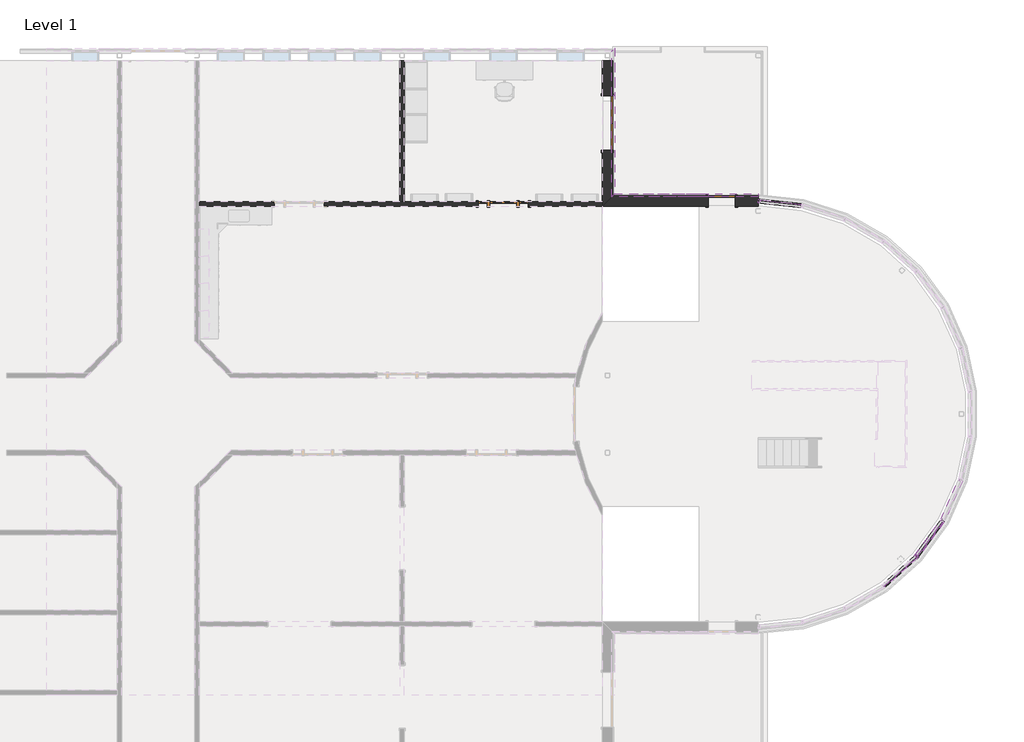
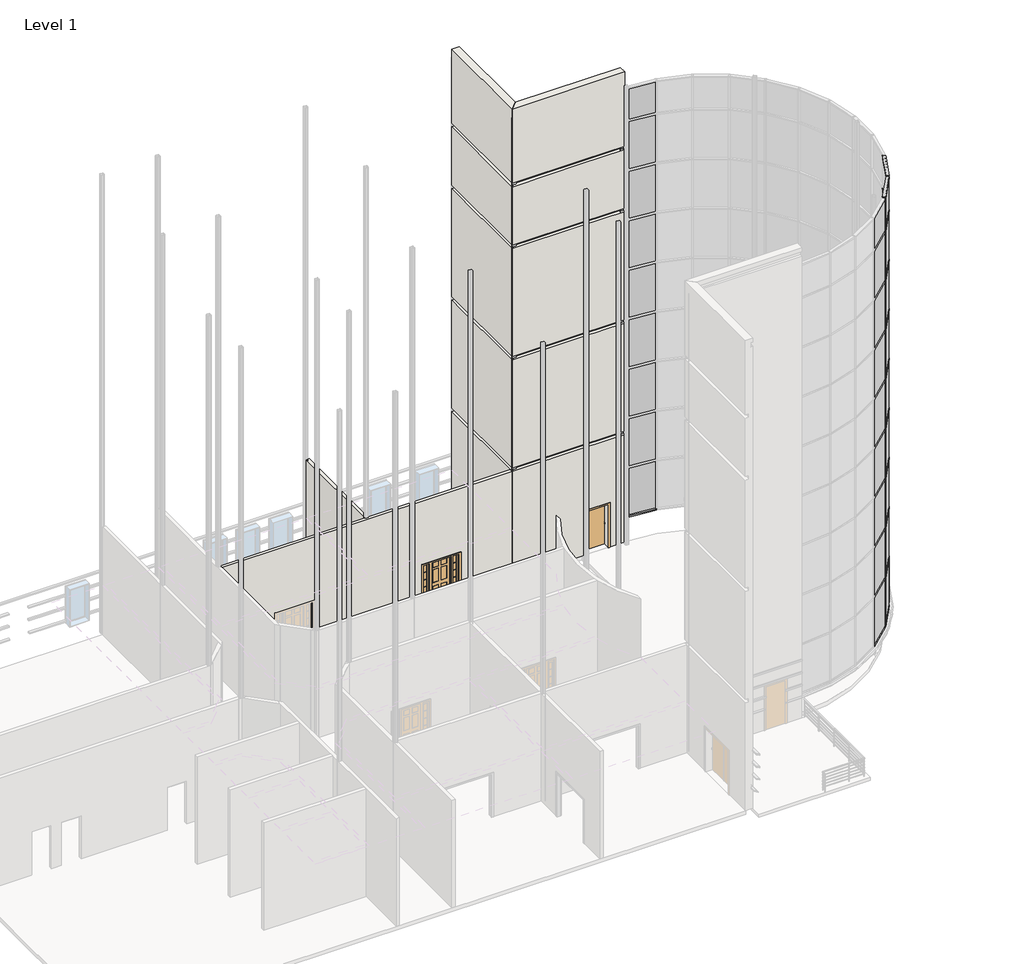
# One storey, part 11 of 16: 40 members, 27 plates, 6 proxies, 4 walls, 3 doors.
"""IFC4 building model written with IfcOpenShell, lengths in millimetres."""

from ifc_helpers import new_model, si_unit, frame, origin, origin_with_axes, place, context, project, spatial, polyline, outline, extrude, faceted_brep, transform, mapped, element, save
from components import door_c5474cef, door_cc5399a4, door_5449110c, member_45463520, member_ab48d357, member_1666ebf7, member_f0fea5a5, member_788d4f16, member_4f99afef, member_ee409385, system_panel_glazed_2e30f1c6, system_panel_glazed_294e175a, system_panel_glazed_6bd74036, system_panel_glazed_36605c35, system_panel_glazed_8bc432e9, system_panel_glazed_41a16be2

model = new_model("IFC4")

# Units and contexts
model_context = context("Model", 3, world=origin())
ifc_project = project(units=[si_unit("LENGTHUNIT", "METRE", prefix="MILLI")], contexts=[model_context])

# Site, building, storey
site = spatial("IfcSite", under=ifc_project)
building = spatial("IfcBuilding", under=site)
storey = spatial("IfcBuildingStorey", under=building, Name="Level 1", Elevation=0.0)

# Proxies
placement = place(None, origin())
element("IfcBuildingElementProxy", 1, Name="Reveals", at=placement, inside=storey, context=model_context, shape_type="SweptSolid", body=[
    extrude(outline(polyline([(10197.062245, 14268.2987109), (10289.137245, 14268.2987109), (10289.137245, 12810.9737109), (10197.062245, 12718.8987109), (10197.062245, 14268.2987109)])), frame((0.0, 0.0, 1625.6), z_axis=(0.0, 0.0, 1.0), x_axis=(1.0, 0.0, 0.0)), (0.0, 0.0, 1.0), 67.7333333),
    extrude(outline(polyline([(10197.062245, 17595.6987109), (10289.137245, 17687.7737109), (10289.137245, 16097.0987109), (10197.062245, 16097.0987109), (10197.062245, 17595.6987109)])), frame((0.0, 0.0, 1625.6), z_axis=(0.0, 0.0, 1.0), x_axis=(1.0, 0.0, 0.0)), (0.0, 0.0, 1.0), 67.7333333),
])
element("IfcBuildingElementProxy", 2, Name="Reveals", at=placement, inside=storey, context=model_context, shape_type="SweptSolid", body=[
    extrude(outline(polyline([(10197.062245, 17595.6987109), (10289.137245, 17687.7737109), (10289.137245, 12810.9737109), (10197.062245, 12718.8987109), (10197.062245, 17595.6987109)])), frame((0.0, 0.0, 2235.2), z_axis=(0.0, 0.0, 1.0), x_axis=(1.0, 0.0, 0.0)), (0.0, 0.0, 1.0), 67.7333333),
])
element("IfcBuildingElementProxy", 3, Name="Reveals", at=placement, inside=storey, context=model_context, shape_type="SweptSolid", body=[
    extrude(outline(polyline([(10197.062245, 17595.6987109), (10289.137245, 17687.7737109), (10289.137245, 12810.9737109), (10197.062245, 12718.8987109), (10197.062245, 17595.6987109)])), frame((0.0, 0.0, 2844.8), z_axis=(0.0, 0.0, 1.0), x_axis=(1.0, 0.0, 0.0)), (0.0, 0.0, 1.0), 67.7333333),
])
element("IfcBuildingElementProxy", 4, Name="Reveals", at=placement, inside=storey, context=model_context, shape_type="SweptSolid", body=[
    extrude(outline(polyline([(14330.912245, 12718.8987109), (14330.912245, 12810.9737109), (15099.262245, 12810.9737109), (15099.262245, 12718.8987109), (14330.912245, 12718.8987109)])), frame((0.0, 0.0, 1625.6), z_axis=(0.0, 0.0, 1.0), x_axis=(1.0, 0.0, 0.0)), (0.0, 0.0, 1.0), 67.7333333),
    extrude(outline(polyline([(10197.062245, 12718.8987109), (10289.137245, 12810.9737109), (13416.512245, 12810.9737109), (13416.512245, 12718.8987109), (10197.062245, 12718.8987109)])), frame((0.0, 0.0, 1625.6), z_axis=(0.0, 0.0, 1.0), x_axis=(1.0, 0.0, 0.0)), (0.0, 0.0, 1.0), 67.7333333),
])
element("IfcBuildingElementProxy", 5, Name="Reveals", at=placement, inside=storey, context=model_context, shape_type="SweptSolid", body=[
    extrude(outline(polyline([(10197.062245, 12718.8987109), (10289.137245, 12810.9737109), (15099.262245, 12810.9737109), (15099.262245, 12718.8987109), (10197.062245, 12718.8987109)])), frame((0.0, 0.0, 2235.2), z_axis=(0.0, 0.0, 1.0), x_axis=(1.0, 0.0, 0.0)), (0.0, 0.0, 1.0), 67.7333333),
])
element("IfcBuildingElementProxy", 6, Name="Reveals", at=placement, inside=storey, context=model_context, shape_type="SweptSolid", body=[
    extrude(outline(polyline([(10197.062245, 12718.8987109), (10289.137245, 12810.9737109), (15099.262245, 12810.9737109), (15099.262245, 12718.8987109), (10197.062245, 12718.8987109)])), frame((0.0, 0.0, 2844.8), z_axis=(0.0, 0.0, 1.0), x_axis=(1.0, 0.0, 0.0)), (0.0, 0.0, 1.0), 67.7333333),
])

# Doors
door_shape = door_c5474cef(model_context)
element("IfcDoor", 7, ObjectType="Double-Flush : 72\" x 84\"", at=placement, inside=storey, context=model_context, shape_type="MappedRepresentation", body=[
    mapped(door_shape, transform((10046.249745, 15182.6987109, 0.0), x_axis=(0.0, 1.0, 0.0), y_axis=(-1.0, 0.0, 0.0), z_axis=(0.0, 0.0, 1.0))),
])
door_2_shape = door_cc5399a4(model_context)
element("IfcDoor", 8, ObjectType="Single-Flush : 36\" x 84\"", at=placement, inside=storey, context=model_context, shape_type="MappedRepresentation", body=[
    mapped(door_2_shape, transform((13873.712245, 12568.0862109, 0.0), x_axis=(-1.0, 0.0, 0.0), y_axis=(0.0, -1.0, 0.0), z_axis=(0.0, 0.0, 1.0))),
])
door_3_shape = door_5449110c(model_context)
element("IfcDoor", 9, ObjectType="Single-Raised Panel with Sidelights : 36\" x 84\"", at=placement, inside=storey, context=model_context, shape_type="MappedRepresentation", body=[
    mapped(door_3_shape, transform((6555.337245, 12469.6612109, 0.0), x_axis=(1.0, 0.0, 0.0), y_axis=(0.0, 1.0, 0.0), z_axis=(0.0, 0.0, 1.0))),
])

# Members
member_shape = member_45463520(model_context)
element("IfcMember", 10, ObjectType="Rectangular Mullion : 2.5\" x 5\" rectangular", at=placement, inside=storey, context=model_context, shape_type="MappedRepresentation", body=[
    mapped(member_shape, transform((21294.7206657, 1888.6100292, 22250.4), x_axis=(0.0, 0.0, 1.0), y_axis=(-0.9135454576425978, 0.4067366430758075, 0.0), z_axis=(-0.4067366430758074, -0.9135454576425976, 0.0))),
])
element("IfcMember", 11, ObjectType="Rectangular Mullion : 2.5\" x 5\" rectangular", at=placement, inside=storey, context=model_context, shape_type="MappedRepresentation", body=[
    mapped(member_shape, transform((20423.2260466, 677.8699658, 22250.4), x_axis=(0.0, 0.0, 1.0), y_axis=(-0.8090169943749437, 0.5877852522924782, 0.0), z_axis=(-0.5877852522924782, -0.8090169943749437, 0.0))),
])
member_2_shape = member_ab48d357(model_context)
element("IfcMember", 12, ObjectType="Rectangular Mullion : 2.5\" x 5\" rectangular", at=placement, inside=storey, context=model_context, shape_type="MappedRepresentation", body=[
    mapped(member_2_shape, transform((15162.4143854, 12561.4486535, 1092.2), x_axis=(0.0, 0.0, -1.0), y_axis=(-0.10452846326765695, -0.994521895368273, 0.0), z_axis=(-0.994521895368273, 0.10452846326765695, 0.0))),
])
element("IfcMember", 13, ObjectType="Rectangular Mullion : 2.5\" x 5\" rectangular", at=placement, inside=storey, context=model_context, shape_type="MappedRepresentation", body=[
    mapped(member_shape, transform((21263.1445956, 1833.9186713, 1092.2), x_axis=(0.0, 0.0, -1.0), y_axis=(-0.8090169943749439, 0.587785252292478, 0.0), z_axis=(0.587785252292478, 0.8090169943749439, 0.0))),
])
element("IfcMember", 14, ObjectType="Rectangular Mullion : 2.5\" x 5\" rectangular", at=placement, inside=storey, context=model_context, shape_type="MappedRepresentation", body=[
    mapped(member_shape, transform((20380.9690166, 630.9387795, 1092.2), x_axis=(0.0, 0.0, -1.0), y_axis=(-0.669130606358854, 0.7431448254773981, 0.0), z_axis=(0.743144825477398, 0.6691306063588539, 0.0))),
])
member_3_shape = member_1666ebf7(model_context)
element("IfcMember", 15, ObjectType="Rectangular Mullion : 2.5\" x 5\" rectangular", at=placement, inside=storey, context=model_context, shape_type="MappedRepresentation", body=[
    mapped(member_3_shape, transform((21294.7206657, 1888.6100292, 3530.6), x_axis=(0.0, 0.0, 1.0), y_axis=(-0.9135454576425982, 0.40673664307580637, 0.0), z_axis=(-0.40673664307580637, -0.9135454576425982, 0.0))),
])
element("IfcMember", 16, ObjectType="Rectangular Mullion : 2.5\" x 5\" rectangular", at=placement, inside=storey, context=model_context, shape_type="MappedRepresentation", body=[
    mapped(member_3_shape, transform((20423.2260466, 677.8699658, 3530.6), x_axis=(0.0, 0.0, 1.0), y_axis=(-0.8090169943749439, 0.5877852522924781, 0.0), z_axis=(-0.587785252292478, -0.8090169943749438, 0.0))),
])
element("IfcMember", 17, ObjectType="Rectangular Mullion : 2.5\" x 5\" rectangular", at=placement, inside=storey, context=model_context, shape_type="MappedRepresentation", body=[
    mapped(member_3_shape, transform((21294.7206657, 1888.6100292, 5969.0), x_axis=(0.0, 0.0, 1.0), y_axis=(-0.9135454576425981, 0.4067366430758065, 0.0), z_axis=(-0.4067366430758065, -0.9135454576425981, 0.0))),
])
element("IfcMember", 18, ObjectType="Rectangular Mullion : 2.5\" x 5\" rectangular", at=placement, inside=storey, context=model_context, shape_type="MappedRepresentation", body=[
    mapped(member_3_shape, transform((20423.2260466, 677.8699658, 5969.0), x_axis=(0.0, 0.0, 1.0), y_axis=(-0.8090169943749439, 0.5877852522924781, 0.0), z_axis=(-0.587785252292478, -0.8090169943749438, 0.0))),
])
element("IfcMember", 19, ObjectType="Rectangular Mullion : 2.5\" x 5\" rectangular", at=placement, inside=storey, context=model_context, shape_type="MappedRepresentation", body=[
    mapped(member_3_shape, transform((21294.7206657, 1888.6100292, 8407.4), x_axis=(0.0, 0.0, 1.0), y_axis=(-0.9135454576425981, 0.4067366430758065, 0.0), z_axis=(-0.4067366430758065, -0.9135454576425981, 0.0))),
])
element("IfcMember", 20, ObjectType="Rectangular Mullion : 2.5\" x 5\" rectangular", at=placement, inside=storey, context=model_context, shape_type="MappedRepresentation", body=[
    mapped(member_3_shape, transform((20423.2260466, 677.8699658, 8407.4), x_axis=(0.0, 0.0, 1.0), y_axis=(-0.8090169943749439, 0.5877852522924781, 0.0), z_axis=(-0.587785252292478, -0.8090169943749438, 0.0))),
])
element("IfcMember", 21, ObjectType="Rectangular Mullion : 2.5\" x 5\" rectangular", at=placement, inside=storey, context=model_context, shape_type="MappedRepresentation", body=[
    mapped(member_3_shape, transform((21294.7206657, 1888.6100292, 10845.8), x_axis=(0.0, 0.0, 1.0), y_axis=(-0.9135454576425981, 0.4067366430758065, 0.0), z_axis=(-0.4067366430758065, -0.9135454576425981, 0.0))),
])
element("IfcMember", 22, ObjectType="Rectangular Mullion : 2.5\" x 5\" rectangular", at=placement, inside=storey, context=model_context, shape_type="MappedRepresentation", body=[
    mapped(member_3_shape, transform((20423.2260466, 677.8699658, 10845.8), x_axis=(0.0, 0.0, 1.0), y_axis=(-0.8090169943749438, 0.5877852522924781, 0.0), z_axis=(-0.5877852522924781, -0.8090169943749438, 0.0))),
])
element("IfcMember", 23, ObjectType="Rectangular Mullion : 2.5\" x 5\" rectangular", at=placement, inside=storey, context=model_context, shape_type="MappedRepresentation", body=[
    mapped(member_3_shape, transform((21294.7206657, 1888.6100292, 13284.2), x_axis=(0.0, 0.0, 1.0), y_axis=(-0.9135454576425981, 0.4067366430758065, 0.0), z_axis=(-0.4067366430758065, -0.9135454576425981, 0.0))),
])
element("IfcMember", 24, ObjectType="Rectangular Mullion : 2.5\" x 5\" rectangular", at=placement, inside=storey, context=model_context, shape_type="MappedRepresentation", body=[
    mapped(member_3_shape, transform((20423.2260466, 677.8699658, 13284.2), x_axis=(0.0, 0.0, 1.0), y_axis=(-0.8090169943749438, 0.5877852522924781, 0.0), z_axis=(-0.5877852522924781, -0.8090169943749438, 0.0))),
])
element("IfcMember", 25, ObjectType="Rectangular Mullion : 2.5\" x 5\" rectangular", at=placement, inside=storey, context=model_context, shape_type="MappedRepresentation", body=[
    mapped(member_3_shape, transform((21294.7206657, 1888.6100292, 15722.6), x_axis=(0.0, 0.0, 1.0), y_axis=(-0.9135454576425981, 0.4067366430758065, 0.0), z_axis=(-0.4067366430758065, -0.9135454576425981, 0.0))),
])
element("IfcMember", 26, ObjectType="Rectangular Mullion : 2.5\" x 5\" rectangular", at=placement, inside=storey, context=model_context, shape_type="MappedRepresentation", body=[
    mapped(member_3_shape, transform((20423.2260466, 677.8699658, 15722.6), x_axis=(0.0, 0.0, 1.0), y_axis=(-0.8090169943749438, 0.5877852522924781, 0.0), z_axis=(-0.5877852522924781, -0.8090169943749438, 0.0))),
])
element("IfcMember", 27, ObjectType="Rectangular Mullion : 2.5\" x 5\" rectangular", at=placement, inside=storey, context=model_context, shape_type="MappedRepresentation", body=[
    mapped(member_3_shape, transform((21294.7206657, 1888.6100292, 18161.0), x_axis=(0.0, 0.0, 1.0), y_axis=(-0.9135454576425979, 0.40673664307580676, 0.0), z_axis=(-0.40673664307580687, -0.9135454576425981, 0.0))),
])
element("IfcMember", 28, ObjectType="Rectangular Mullion : 2.5\" x 5\" rectangular", at=placement, inside=storey, context=model_context, shape_type="MappedRepresentation", body=[
    mapped(member_3_shape, transform((20423.2260466, 677.8699658, 18161.0), x_axis=(0.0, 0.0, 1.0), y_axis=(-0.8090169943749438, 0.5877852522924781, 0.0), z_axis=(-0.5877852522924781, -0.8090169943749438, 0.0))),
])
element("IfcMember", 29, ObjectType="Rectangular Mullion : 2.5\" x 5\" rectangular", at=placement, inside=storey, context=model_context, shape_type="MappedRepresentation", body=[
    mapped(member_3_shape, transform((21294.7206657, 1888.6100292, 20599.4), x_axis=(0.0, 0.0, 1.0), y_axis=(-0.9135454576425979, 0.40673664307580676, 0.0), z_axis=(-0.40673664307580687, -0.9135454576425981, 0.0))),
])
element("IfcMember", 30, ObjectType="Rectangular Mullion : 2.5\" x 5\" rectangular", at=placement, inside=storey, context=model_context, shape_type="MappedRepresentation", body=[
    mapped(member_3_shape, transform((20423.2260466, 677.8699658, 20599.4), x_axis=(0.0, 0.0, 1.0), y_axis=(-0.8090169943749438, 0.5877852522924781, 0.0), z_axis=(-0.5877852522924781, -0.8090169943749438, 0.0))),
])
member_4_shape = member_f0fea5a5(model_context)
element("IfcMember", 31, ObjectType="Rectangular Mullion : 2.5\" x 5\" rectangular", at=placement, inside=storey, context=model_context, shape_type="MappedRepresentation", body=[
    mapped(member_4_shape, transform((21281.8067773, 1859.6049609, 1092.2), x_axis=(-0.5000000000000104, -0.8660254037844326, 0.0), y_axis=(-0.8660254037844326, 0.5000000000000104, 0.0), z_axis=(0.0, 0.0, -1.0))),
])
element("IfcMember", 32, ObjectType="Rectangular Mullion : 2.5\" x 5\" rectangular", at=placement, inside=storey, context=model_context, shape_type="MappedRepresentation", body=[
    mapped(member_4_shape, transform((20404.5638648, 652.1836762, 1092.2), x_axis=(-0.6691306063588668, -0.7431448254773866, 0.0), y_axis=(-0.7431448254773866, 0.6691306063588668, 0.0), z_axis=(0.0, 0.0, -1.0))),
])
element("IfcMember", 33, ObjectType="Rectangular Mullion : 2.5\" x 5\" rectangular", at=placement, inside=storey, context=model_context, shape_type="MappedRepresentation", body=[
    mapped(member_4_shape, transform((20404.5638648, 652.1836762, 3530.6), x_axis=(-0.6691306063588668, -0.7431448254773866, 0.0), y_axis=(-0.7431448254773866, 0.6691306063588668, 0.0), z_axis=(0.0, 0.0, -1.0))),
])
element("IfcMember", 34, ObjectType="Rectangular Mullion : 2.5\" x 5\" rectangular", at=placement, inside=storey, context=model_context, shape_type="MappedRepresentation", body=[
    mapped(member_4_shape, transform((20404.5638648, 652.1836762, 5969.0), x_axis=(-0.6691306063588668, -0.7431448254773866, 0.0), y_axis=(-0.7431448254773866, 0.6691306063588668, 0.0), z_axis=(0.0, 0.0, -1.0))),
])
element("IfcMember", 35, ObjectType="Rectangular Mullion : 2.5\" x 5\" rectangular", at=placement, inside=storey, context=model_context, shape_type="MappedRepresentation", body=[
    mapped(member_4_shape, transform((20404.5638648, 652.1836762, 8407.4), x_axis=(-0.6691306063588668, -0.7431448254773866, 0.0), y_axis=(-0.7431448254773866, 0.6691306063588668, 0.0), z_axis=(0.0, 0.0, -1.0))),
])
element("IfcMember", 36, ObjectType="Rectangular Mullion : 2.5\" x 5\" rectangular", at=placement, inside=storey, context=model_context, shape_type="MappedRepresentation", body=[
    mapped(member_4_shape, transform((20404.5638648, 652.1836762, 10845.8), x_axis=(-0.6691306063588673, -0.743144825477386, 0.0), y_axis=(-0.743144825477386, 0.6691306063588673, 0.0), z_axis=(0.0, 0.0, -1.0))),
])
element("IfcMember", 37, ObjectType="Rectangular Mullion : 2.5\" x 5\" rectangular", at=placement, inside=storey, context=model_context, shape_type="MappedRepresentation", body=[
    mapped(member_4_shape, transform((20404.5638648, 652.1836762, 13284.2), x_axis=(-0.6691306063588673, -0.743144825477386, 0.0), y_axis=(-0.743144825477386, 0.6691306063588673, 0.0), z_axis=(0.0, 0.0, -1.0))),
])
element("IfcMember", 38, ObjectType="Rectangular Mullion : 2.5\" x 5\" rectangular", at=placement, inside=storey, context=model_context, shape_type="MappedRepresentation", body=[
    mapped(member_4_shape, transform((20404.5638648, 652.1836762, 15722.6), x_axis=(-0.6691306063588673, -0.743144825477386, 0.0), y_axis=(-0.743144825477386, 0.6691306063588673, 0.0), z_axis=(0.0, 0.0, -1.0))),
])
element("IfcMember", 39, ObjectType="Rectangular Mullion : 2.5\" x 5\" rectangular", at=placement, inside=storey, context=model_context, shape_type="MappedRepresentation", body=[
    mapped(member_4_shape, transform((20404.5638648, 652.1836762, 18161.0), x_axis=(-0.6691306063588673, -0.743144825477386, 0.0), y_axis=(-0.743144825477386, 0.6691306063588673, 0.0), z_axis=(0.0, 0.0, -1.0))),
])
member_5_shape = member_788d4f16(model_context)
element("IfcMember", 40, ObjectType="Rectangular Mullion : 2.5\" x 5\" rectangular", at=placement, inside=storey, context=model_context, shape_type="MappedRepresentation", body=[
    mapped(member_5_shape, transform((20404.5638648, 652.1836762, 20599.4), x_axis=(-0.6691306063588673, -0.743144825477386, 0.0), y_axis=(-0.743144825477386, 0.6691306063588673, 0.0), z_axis=(0.0, 0.0, -1.0))),
])
member_6_shape = member_4f99afef(model_context)
element("IfcMember", 41, ObjectType="Rectangular Mullion : 2.5\" x 5\" rectangular", at=placement, inside=storey, context=model_context, shape_type="MappedRepresentation", body=[
    mapped(member_6_shape, transform((15099.262245, 12568.0862109, 22250.4), x_axis=(-0.994521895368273, 0.10452846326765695, 0.0), y_axis=(-0.10452846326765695, -0.994521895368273, 0.0), z_axis=(0.0, 0.0, 1.0))),
])
member_7_shape = member_ee409385(model_context)
element("IfcMember", 42, ObjectType="Rectangular Mullion : 2.5\" x 5\" rectangular", at=placement, inside=storey, context=model_context, shape_type="MappedRepresentation", body=[
    mapped(member_7_shape, transform((15099.262245, 12568.0862109, 3530.6), x_axis=(-0.994521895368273, 0.10452846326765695, 0.0), y_axis=(-0.10452846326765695, -0.994521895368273, 0.0), z_axis=(0.0, 0.0, 1.0))),
])
element("IfcMember", 43, ObjectType="Rectangular Mullion : 2.5\" x 5\" rectangular", at=placement, inside=storey, context=model_context, shape_type="MappedRepresentation", body=[
    mapped(member_7_shape, transform((15099.262245, 12568.0862109, 5969.0), x_axis=(-0.994521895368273, 0.10452846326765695, 0.0), y_axis=(-0.10452846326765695, -0.994521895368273, 0.0), z_axis=(0.0, 0.0, 1.0))),
])
element("IfcMember", 44, ObjectType="Rectangular Mullion : 2.5\" x 5\" rectangular", at=placement, inside=storey, context=model_context, shape_type="MappedRepresentation", body=[
    mapped(member_7_shape, transform((15099.262245, 12568.0862109, 8407.4), x_axis=(-0.994521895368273, 0.10452846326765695, 0.0), y_axis=(-0.10452846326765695, -0.994521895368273, 0.0), z_axis=(0.0, 0.0, 1.0))),
])
element("IfcMember", 45, ObjectType="Rectangular Mullion : 2.5\" x 5\" rectangular", at=placement, inside=storey, context=model_context, shape_type="MappedRepresentation", body=[
    mapped(member_7_shape, transform((15099.262245, 12568.0862109, 10845.8), x_axis=(-0.994521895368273, 0.10452846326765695, 0.0), y_axis=(-0.10452846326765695, -0.994521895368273, 0.0), z_axis=(0.0, 0.0, 1.0))),
])
element("IfcMember", 46, ObjectType="Rectangular Mullion : 2.5\" x 5\" rectangular", at=placement, inside=storey, context=model_context, shape_type="MappedRepresentation", body=[
    mapped(member_7_shape, transform((15099.262245, 12568.0862109, 13284.2), x_axis=(-0.994521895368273, 0.10452846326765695, 0.0), y_axis=(-0.10452846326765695, -0.994521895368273, 0.0), z_axis=(0.0, 0.0, 1.0))),
])
element("IfcMember", 47, ObjectType="Rectangular Mullion : 2.5\" x 5\" rectangular", at=placement, inside=storey, context=model_context, shape_type="MappedRepresentation", body=[
    mapped(member_7_shape, transform((15099.262245, 12568.0862109, 15722.6), x_axis=(-0.994521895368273, 0.10452846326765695, 0.0), y_axis=(-0.10452846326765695, -0.994521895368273, 0.0), z_axis=(0.0, 0.0, 1.0))),
])
element("IfcMember", 48, ObjectType="Rectangular Mullion : 2.5\" x 5\" rectangular", at=placement, inside=storey, context=model_context, shape_type="MappedRepresentation", body=[
    mapped(member_7_shape, transform((15099.262245, 12568.0862109, 18161.0), x_axis=(-0.994521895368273, 0.10452846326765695, 0.0), y_axis=(-0.10452846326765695, -0.994521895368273, 0.0), z_axis=(0.0, 0.0, 1.0))),
])
element("IfcMember", 49, ObjectType="Rectangular Mullion : 2.5\" x 5\" rectangular", at=placement, inside=storey, context=model_context, shape_type="MappedRepresentation", body=[
    mapped(member_7_shape, transform((15099.262245, 12568.0862109, 20599.4), x_axis=(-0.994521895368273, 0.10452846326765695, 0.0), y_axis=(-0.10452846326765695, -0.994521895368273, 0.0), z_axis=(0.0, 0.0, 1.0))),
])

# Plates
system_panel_glazed_shape = system_panel_glazed_2e30f1c6(model_context)
element("IfcPlate", 50, ObjectType="System Panel : Glazed", at=placement, inside=storey, context=model_context, shape_type="MappedRepresentation", body=[
    mapped(system_panel_glazed_shape, transform((15857.189761, 12488.4248189, 1155.7), x_axis=(0.994521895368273, -0.10452846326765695, 0.0), y_axis=(0.10452846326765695, 0.994521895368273, 0.0), z_axis=(0.0, 0.0, 1.0))),
])
system_panel_glazed_2_shape = system_panel_glazed_294e175a(model_context)
element("IfcPlate", 51, ObjectType="System Panel : Glazed", at=placement, inside=storey, context=model_context, shape_type="MappedRepresentation", body=[
    mapped(system_panel_glazed_2_shape, transform((20843.1853211, 1255.8943186, 1155.7), x_axis=(-0.5877852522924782, -0.8090169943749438, 0.0), y_axis=(0.8090169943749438, -0.5877852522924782, 0.0), z_axis=(0.0, 0.0, 1.0))),
])
element("IfcPlate", 52, ObjectType="System Panel : Glazed", at=placement, inside=storey, context=model_context, shape_type="MappedRepresentation", body=[
    mapped(system_panel_glazed_2_shape, transform((19850.0088393, 152.8600885, 1155.7), x_axis=(-0.7431448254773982, -0.6691306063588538, 0.0), y_axis=(0.6691306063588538, -0.7431448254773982, 0.0), z_axis=(0.0, 0.0, 1.0))),
])
system_panel_glazed_3_shape = system_panel_glazed_6bd74036(model_context)
element("IfcPlate", 53, ObjectType="System Panel : Glazed", at=placement, inside=storey, context=model_context, shape_type="MappedRepresentation", body=[
    mapped(system_panel_glazed_3_shape, transform((15857.189761, 12488.4248189, 3562.35), x_axis=(0.994521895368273, -0.10452846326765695, 0.0), y_axis=(0.10452846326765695, 0.994521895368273, 0.0), z_axis=(0.0, 0.0, 1.0))),
])
element("IfcPlate", 54, ObjectType="System Panel : Glazed", at=placement, inside=storey, context=model_context, shape_type="MappedRepresentation", body=[
    mapped(system_panel_glazed_3_shape, transform((15857.189761, 12488.4248189, 6000.75), x_axis=(0.994521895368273, -0.10452846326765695, 0.0), y_axis=(0.10452846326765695, 0.994521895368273, 0.0), z_axis=(0.0, 0.0, 1.0))),
])
element("IfcPlate", 55, ObjectType="System Panel : Glazed", at=placement, inside=storey, context=model_context, shape_type="MappedRepresentation", body=[
    mapped(system_panel_glazed_3_shape, transform((15857.189761, 12488.4248189, 8439.15), x_axis=(0.994521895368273, -0.10452846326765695, 0.0), y_axis=(0.10452846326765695, 0.994521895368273, 0.0), z_axis=(0.0, 0.0, 1.0))),
])
element("IfcPlate", 56, ObjectType="System Panel : Glazed", at=placement, inside=storey, context=model_context, shape_type="MappedRepresentation", body=[
    mapped(system_panel_glazed_3_shape, transform((15857.189761, 12488.4248189, 10877.55), x_axis=(0.994521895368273, -0.10452846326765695, 0.0), y_axis=(0.10452846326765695, 0.994521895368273, 0.0), z_axis=(0.0, 0.0, 1.0))),
])
element("IfcPlate", 57, ObjectType="System Panel : Glazed", at=placement, inside=storey, context=model_context, shape_type="MappedRepresentation", body=[
    mapped(system_panel_glazed_3_shape, transform((15857.189761, 12488.4248189, 13315.95), x_axis=(0.994521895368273, -0.10452846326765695, 0.0), y_axis=(0.10452846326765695, 0.994521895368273, 0.0), z_axis=(0.0, 0.0, 1.0))),
])
element("IfcPlate", 58, ObjectType="System Panel : Glazed", at=placement, inside=storey, context=model_context, shape_type="MappedRepresentation", body=[
    mapped(system_panel_glazed_3_shape, transform((15857.189761, 12488.4248189, 15754.35), x_axis=(0.994521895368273, -0.10452846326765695, 0.0), y_axis=(0.10452846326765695, 0.994521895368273, 0.0), z_axis=(0.0, 0.0, 1.0))),
])
element("IfcPlate", 59, ObjectType="System Panel : Glazed", at=placement, inside=storey, context=model_context, shape_type="MappedRepresentation", body=[
    mapped(system_panel_glazed_3_shape, transform((15857.189761, 12488.4248189, 18192.75), x_axis=(0.994521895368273, -0.10452846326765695, 0.0), y_axis=(0.10452846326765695, 0.994521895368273, 0.0), z_axis=(0.0, 0.0, 1.0))),
])
system_panel_glazed_4_shape = system_panel_glazed_36605c35(model_context)
element("IfcPlate", 60, ObjectType="System Panel : Glazed", at=placement, inside=storey, context=model_context, shape_type="MappedRepresentation", body=[
    mapped(system_panel_glazed_4_shape, transform((20843.1853211, 1255.8943186, 3562.35), x_axis=(-0.5877852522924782, -0.8090169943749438, 0.0), y_axis=(0.8090169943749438, -0.5877852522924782, 0.0), z_axis=(0.0, 0.0, 1.0))),
])
element("IfcPlate", 61, ObjectType="System Panel : Glazed", at=placement, inside=storey, context=model_context, shape_type="MappedRepresentation", body=[
    mapped(system_panel_glazed_4_shape, transform((19850.0088393, 152.8600885, 3562.35), x_axis=(-0.7431448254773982, -0.6691306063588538, 0.0), y_axis=(0.6691306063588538, -0.7431448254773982, 0.0), z_axis=(0.0, 0.0, 1.0))),
])
element("IfcPlate", 62, ObjectType="System Panel : Glazed", at=placement, inside=storey, context=model_context, shape_type="MappedRepresentation", body=[
    mapped(system_panel_glazed_4_shape, transform((20843.1853211, 1255.8943186, 6000.75), x_axis=(-0.5877852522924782, -0.8090169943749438, 0.0), y_axis=(0.8090169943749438, -0.5877852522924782, 0.0), z_axis=(0.0, 0.0, 1.0))),
])
element("IfcPlate", 63, ObjectType="System Panel : Glazed", at=placement, inside=storey, context=model_context, shape_type="MappedRepresentation", body=[
    mapped(system_panel_glazed_4_shape, transform((19850.0088393, 152.8600885, 6000.75), x_axis=(-0.7431448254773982, -0.6691306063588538, 0.0), y_axis=(0.6691306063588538, -0.7431448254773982, 0.0), z_axis=(0.0, 0.0, 1.0))),
])
element("IfcPlate", 64, ObjectType="System Panel : Glazed", at=placement, inside=storey, context=model_context, shape_type="MappedRepresentation", body=[
    mapped(system_panel_glazed_4_shape, transform((20843.1853211, 1255.8943186, 8439.15), x_axis=(-0.5877852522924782, -0.8090169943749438, 0.0), y_axis=(0.8090169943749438, -0.5877852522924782, 0.0), z_axis=(0.0, 0.0, 1.0))),
])
element("IfcPlate", 65, ObjectType="System Panel : Glazed", at=placement, inside=storey, context=model_context, shape_type="MappedRepresentation", body=[
    mapped(system_panel_glazed_4_shape, transform((19850.0088393, 152.8600885, 8439.15), x_axis=(-0.7431448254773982, -0.6691306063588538, 0.0), y_axis=(0.6691306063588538, -0.7431448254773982, 0.0), z_axis=(0.0, 0.0, 1.0))),
])
element("IfcPlate", 66, ObjectType="System Panel : Glazed", at=placement, inside=storey, context=model_context, shape_type="MappedRepresentation", body=[
    mapped(system_panel_glazed_4_shape, transform((20843.1853211, 1255.8943186, 10877.55), x_axis=(-0.5877852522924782, -0.8090169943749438, 0.0), y_axis=(0.8090169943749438, -0.5877852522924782, 0.0), z_axis=(0.0, 0.0, 1.0))),
])
element("IfcPlate", 67, ObjectType="System Panel : Glazed", at=placement, inside=storey, context=model_context, shape_type="MappedRepresentation", body=[
    mapped(system_panel_glazed_4_shape, transform((19850.0088393, 152.8600885, 10877.55), x_axis=(-0.7431448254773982, -0.6691306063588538, 0.0), y_axis=(0.6691306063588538, -0.7431448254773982, 0.0), z_axis=(0.0, 0.0, 1.0))),
])
element("IfcPlate", 68, ObjectType="System Panel : Glazed", at=placement, inside=storey, context=model_context, shape_type="MappedRepresentation", body=[
    mapped(system_panel_glazed_4_shape, transform((20843.1853211, 1255.8943186, 13315.95), x_axis=(-0.5877852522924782, -0.8090169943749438, 0.0), y_axis=(0.8090169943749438, -0.5877852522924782, 0.0), z_axis=(0.0, 0.0, 1.0))),
])
element("IfcPlate", 69, ObjectType="System Panel : Glazed", at=placement, inside=storey, context=model_context, shape_type="MappedRepresentation", body=[
    mapped(system_panel_glazed_4_shape, transform((19850.0088393, 152.8600885, 13315.95), x_axis=(-0.7431448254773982, -0.6691306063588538, 0.0), y_axis=(0.6691306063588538, -0.7431448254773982, 0.0), z_axis=(0.0, 0.0, 1.0))),
])
element("IfcPlate", 70, ObjectType="System Panel : Glazed", at=placement, inside=storey, context=model_context, shape_type="MappedRepresentation", body=[
    mapped(system_panel_glazed_4_shape, transform((20843.1853211, 1255.8943186, 15754.35), x_axis=(-0.5877852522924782, -0.8090169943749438, 0.0), y_axis=(0.8090169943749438, -0.5877852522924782, 0.0), z_axis=(0.0, 0.0, 1.0))),
])
element("IfcPlate", 71, ObjectType="System Panel : Glazed", at=placement, inside=storey, context=model_context, shape_type="MappedRepresentation", body=[
    mapped(system_panel_glazed_4_shape, transform((19850.0088393, 152.8600885, 15754.35), x_axis=(-0.7431448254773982, -0.6691306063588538, 0.0), y_axis=(0.6691306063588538, -0.7431448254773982, 0.0), z_axis=(0.0, 0.0, 1.0))),
])
element("IfcPlate", 72, ObjectType="System Panel : Glazed", at=placement, inside=storey, context=model_context, shape_type="MappedRepresentation", body=[
    mapped(system_panel_glazed_4_shape, transform((20843.1853211, 1255.8943186, 18192.75), x_axis=(-0.5877852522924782, -0.8090169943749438, 0.0), y_axis=(0.8090169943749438, -0.5877852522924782, 0.0), z_axis=(0.0, 0.0, 1.0))),
])
element("IfcPlate", 73, ObjectType="System Panel : Glazed", at=placement, inside=storey, context=model_context, shape_type="MappedRepresentation", body=[
    mapped(system_panel_glazed_4_shape, transform((19850.0088393, 152.8600885, 18192.75), x_axis=(-0.7431448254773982, -0.6691306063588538, 0.0), y_axis=(0.6691306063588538, -0.7431448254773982, 0.0), z_axis=(0.0, 0.0, 1.0))),
])
system_panel_glazed_5_shape = system_panel_glazed_8bc432e9(model_context)
element("IfcPlate", 74, ObjectType="System Panel : Glazed", at=placement, inside=storey, context=model_context, shape_type="MappedRepresentation", body=[
    mapped(system_panel_glazed_5_shape, transform((15857.189761, 12488.4248189, 20631.15), x_axis=(0.994521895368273, -0.10452846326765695, 0.0), y_axis=(0.10452846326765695, 0.994521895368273, 0.0), z_axis=(0.0, 0.0, 1.0))),
])
system_panel_glazed_6_shape = system_panel_glazed_41a16be2(model_context)
element("IfcPlate", 75, ObjectType="System Panel : Glazed", at=placement, inside=storey, context=model_context, shape_type="MappedRepresentation", body=[
    mapped(system_panel_glazed_6_shape, transform((20843.1853211, 1255.8943186, 20631.15), x_axis=(-0.5877852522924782, -0.8090169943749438, 0.0), y_axis=(0.8090169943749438, -0.5877852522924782, 0.0), z_axis=(0.0, 0.0, 1.0))),
])
element("IfcPlate", 76, ObjectType="System Panel : Glazed", at=placement, inside=storey, context=model_context, shape_type="MappedRepresentation", body=[
    mapped(system_panel_glazed_6_shape, transform((19850.0088393, 152.8600885, 20631.15), x_axis=(-0.7431448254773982, -0.6691306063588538, 0.0), y_axis=(0.6691306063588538, -0.7431448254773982, 0.0), z_axis=(0.0, 0.0, 1.0))),
])

# Walls
element("IfcWall", 77, ObjectType="Exterior - Brick and CMU on MTL. Stud", at=placement, inside=storey, context=model_context, shape_type="Brep", body=[
    faceted_brep([(9870.037245, 12391.8737109, 23164.8), (9870.037245, 17268.6737109, 23164.8), (9870.037245, 17268.6737109, 19507.2), (9870.037245, 12391.8737109, 19507.2), (9870.037245, 17268.6737109, 0.0), (9870.037245, 16097.0987109, 0.0), (9870.037245, 16097.0987109, 2133.6), (9870.037245, 14268.2987109, 2133.6), (9870.037245, 14268.2987109, 0.0), (9870.037245, 12547.4487109, 0.0), (9870.037245, 12391.8737109, 0.0), (9870.037245, 12391.8737109, 5308.6), (9870.037245, 12547.4487109, 5308.6), (9870.037245, 17268.6737109, 5308.6), (9870.037245, 12391.8737109, 19329.4), (9870.037245, 17268.6737109, 19329.4), (9870.037245, 17268.6737109, 16459.2), (9870.037245, 12391.8737109, 16459.2), (9870.037245, 12391.8737109, 16281.4), (9870.037245, 17268.6737109, 16281.4), (9870.037245, 17268.6737109, 10972.8), (9870.037245, 12391.8737109, 10972.8), (9870.037245, 17268.6737109, 5486.4), (9870.037245, 12391.8737109, 5486.4), (9870.037245, 12391.8737109, 10795.0), (9870.037245, 17268.6737109, 10795.0), (10222.462245, 17268.6737109, 23164.8), (10222.462245, 12744.2987109, 23164.8), (10222.462245, 12744.2987109, 22961.6), (10222.462245, 17268.6737109, 22961.6), (10222.462245, 12744.2987109, 1693.3333333), (10222.462245, 14268.2987109, 1693.3333333), (10222.462245, 14268.2987109, 2133.6), (10222.462245, 16097.0987109, 2133.6), (10222.462245, 16097.0987109, 1693.3333333), (10222.462245, 17268.6737109, 1693.3333333), (10222.462245, 17268.6737109, 2235.2), (10222.462245, 12744.2987109, 2235.2), (10222.462245, 14268.2987109, 1625.6), (10222.462245, 12744.2987109, 1625.6), (10222.462245, 12744.2987109, 1085.85), (10222.462245, 14268.2987109, 1085.85), (10222.462245, 14268.2987109, 1016.0), (10222.462245, 12744.2987109, 1016.0), (10222.462245, 12744.2987109, 0.0), (10222.462245, 14268.2987109, 0.0), (10222.462245, 17268.6737109, 1625.6), (10222.462245, 16097.0987109, 1625.6), (10222.462245, 16097.0987109, 1085.85), (10222.462245, 17268.6737109, 1085.85), (10222.462245, 12744.2987109, 2302.9333333), (10222.462245, 17268.6737109, 2302.9333333), (10222.462245, 17268.6737109, 2844.8), (10222.462245, 12744.2987109, 2844.8), (10222.462245, 12744.2987109, 2912.5333333), (10222.462245, 17268.6737109, 2912.5333333), (10222.462245, 17268.6737109, 22758.4), (10222.462245, 12744.2987109, 22758.4), (10222.462245, 17268.6737109, 0.0), (10222.462245, 17268.6737109, 1016.0), (10222.462245, 16097.0987109, 1016.0), (10222.462245, 16097.0987109, 0.0), (10130.387245, 17268.6737109, 0.0), (10130.387245, 16097.0987109, 0.0), (10130.387245, 12652.2237109, 0.0), (10130.387245, 14268.2987109, 0.0), (10197.062245, 12718.8987109, 1693.3333333), (10197.062245, 14268.2987109, 1693.3333333), (10197.062245, 14268.2987109, 1625.6), (10197.062245, 12718.8987109, 1625.6), (10197.062245, 12718.8987109, 2235.2), (10197.062245, 17268.6737109, 2235.2), (10197.062245, 17268.6737109, 2302.9333333), (10197.062245, 12718.8987109, 2302.9333333), (10197.062245, 12718.8987109, 2844.8), (10197.062245, 17268.6737109, 2844.8), (10197.062245, 17268.6737109, 2912.5333333), (10197.062245, 12718.8987109, 2912.5333333), (10130.387245, 12652.2237109, 1085.85), (10130.387245, 14268.2987109, 1085.85), (10130.387245, 14268.2987109, 1016.0), (10130.387245, 12652.2237109, 1016.0), (10130.387245, 12652.2237109, 22758.4), (10130.387245, 17268.6737109, 22758.4), (10130.387245, 17268.6737109, 22961.6), (10130.387245, 12652.2237109, 22961.6), (10197.062245, 17268.6737109, 1693.3333333), (10197.062245, 17268.6737109, 1625.6), (10130.387245, 17268.6737109, 1085.85), (10130.387245, 17268.6737109, 1016.0), (10035.137245, 17268.6737109, 5308.6), (10035.137245, 17268.6737109, 5486.4), (10035.137245, 17268.6737109, 10795.0), (10035.137245, 17268.6737109, 10972.8), (10035.137245, 17268.6737109, 16281.4), (10035.137245, 17268.6737109, 16459.2), (10035.137245, 17268.6737109, 19329.4), (10035.137245, 17268.6737109, 19507.2), (10197.062245, 16097.0987109, 1693.3333333), (10197.062245, 16097.0987109, 1625.6), (10130.387245, 16097.0987109, 1085.85), (10130.387245, 16097.0987109, 1016.0), (10035.137245, 12556.9737109, 5308.6), (10035.137245, 12556.9737109, 5486.4), (10035.137245, 12556.9737109, 19329.4), (10035.137245, 12556.9737109, 19507.2), (10035.137245, 12556.9737109, 16281.4), (10035.137245, 12556.9737109, 16459.2), (10035.137245, 12556.9737109, 10795.0), (10035.137245, 12556.9737109, 10972.8)], [[[0, 1, 2, 3]], [[4, 5, 6, 7, 8, 9, 10, 11, 12, 13]], [[14, 15, 16, 17]], [[18, 19, 20, 21]], [[22, 23, 24, 25]], [[26, 27, 28, 29]], [[30, 31, 32, 33, 34, 35, 36, 37]], [[38, 39, 40, 41]], [[42, 43, 44, 45]], [[46, 47, 48, 49]], [[50, 51, 52, 53]], [[54, 55, 56, 57]], [[58, 59, 60, 61]], [[1, 0, 27, 26]], [[4, 62, 63, 5]], [[64, 10, 9, 8, 65]], [[66, 67, 31, 30]], [[68, 69, 39, 38]], [[67, 66, 69, 68]], [[70, 71, 72, 73]], [[74, 75, 76, 77]], [[78, 79, 41, 40]], [[80, 81, 43, 42]], [[79, 78, 81, 80]], [[82, 83, 84, 85]], [[1, 26, 29, 84, 83, 56, 55, 76, 75, 52, 51, 72, 71, 36, 35, 86, 87, 46, 49, 88, 89, 59, 58, 62, 4, 13, 90, 91, 22, 25, 92, 93, 20, 19, 94, 95, 16, 15, 96, 97, 2]], [[62, 58, 61, 63]], [[44, 64, 65, 45]], [[35, 34, 98, 86]], [[47, 46, 87, 99]], [[73, 72, 51, 50]], [[71, 70, 37, 36]], [[77, 76, 55, 54]], [[75, 74, 53, 52]], [[49, 48, 100, 88]], [[60, 59, 89, 101]], [[83, 82, 57, 56]], [[85, 84, 29, 28]], [[33, 6, 5, 63, 61, 60, 101, 100, 48, 47, 99, 98, 34]], [[6, 33, 32, 7]], [[7, 32, 31, 67, 68, 38, 41, 79, 80, 42, 45, 65, 8]], [[86, 98, 99, 87]], [[88, 100, 101, 89]], [[102, 90, 13, 12, 11]], [[90, 102, 103, 91]], [[104, 96, 15, 14]], [[97, 105, 3, 2]], [[96, 104, 105, 97]], [[106, 94, 19, 18]], [[95, 107, 17, 16]], [[94, 106, 107, 95]], [[108, 92, 25, 24]], [[93, 109, 21, 20]], [[92, 108, 109, 93]], [[91, 103, 23, 22]], [[27, 0, 3, 105, 104, 14, 17, 107, 106, 18, 21, 109, 108, 24, 23, 103, 102, 11, 10, 64, 44, 43, 81, 78, 40, 39, 69, 66, 30, 37, 70, 73, 50, 53, 74, 77, 54, 57, 82, 85, 28]]]),
])
element("IfcWall", 78, ObjectType="Exterior - Brick and CMU on MTL. Stud", at=placement, inside=storey, context=model_context, shape_type="Brep", body=[
    faceted_brep([(15099.262245, 12391.8737109, 23164.8), (9870.037245, 12391.8737109, 23164.8), (9870.037245, 12391.8737109, 19507.2), (13111.712245, 12391.8737109, 19507.2), (15099.262245, 12391.8737109, 19507.2), (15099.262245, 12391.8737109, 22250.4), (9870.037245, 12391.8737109, 0.0), (10063.712245, 12391.8737109, 0.0), (13416.512245, 12391.8737109, 0.0), (13416.512245, 12391.8737109, 2133.6), (14330.912245, 12391.8737109, 2133.6), (14330.912245, 12391.8737109, 0.0), (15099.262245, 12391.8737109, 0.0), (15099.262245, 12391.8737109, 1092.2), (15099.262245, 12391.8737109, 5308.6), (13111.712245, 12391.8737109, 5308.6), (9870.037245, 12391.8737109, 5308.6), (15099.262245, 12391.8737109, 16281.4), (13111.712245, 12391.8737109, 16281.4), (9870.037245, 12391.8737109, 16281.4), (9870.037245, 12391.8737109, 10972.8), (13111.712245, 12391.8737109, 10972.8), (15099.262245, 12391.8737109, 10972.8), (13111.712245, 12391.8737109, 5486.4), (15099.262245, 12391.8737109, 5486.4), (15099.262245, 12391.8737109, 10795.0), (13111.712245, 12391.8737109, 10795.0), (9870.037245, 12391.8737109, 10795.0), (9870.037245, 12391.8737109, 5486.4), (13111.712245, 12391.8737109, 19329.4), (9870.037245, 12391.8737109, 19329.4), (9870.037245, 12391.8737109, 16459.2), (13111.712245, 12391.8737109, 16459.2), (15099.262245, 12391.8737109, 16459.2), (15099.262245, 12391.8737109, 19329.4), (10222.462245, 12744.2987109, 23164.8), (15099.262245, 12744.2987109, 23164.8), (15099.262245, 12744.2987109, 22961.6), (10222.462245, 12744.2987109, 22961.6), (15099.262245, 12744.2987109, 1693.3333333), (14330.912245, 12744.2987109, 1693.3333333), (14330.912245, 12744.2987109, 2133.6), (13416.512245, 12744.2987109, 2133.6), (13416.512245, 12744.2987109, 1693.3333333), (10222.462245, 12744.2987109, 1693.3333333), (10222.462245, 12744.2987109, 2235.2), (15099.262245, 12744.2987109, 2235.2), (14330.912245, 12744.2987109, 1625.6), (15099.262245, 12744.2987109, 1625.6), (15099.262245, 12744.2987109, 1092.2), (15099.262245, 12744.2987109, 1085.85), (14330.912245, 12744.2987109, 1085.85), (15099.262245, 12744.2987109, 2844.8), (15099.262245, 12744.2987109, 2302.9333333), (10222.462245, 12744.2987109, 2302.9333333), (10222.462245, 12744.2987109, 2844.8), (10222.462245, 12744.2987109, 1625.6), (13416.512245, 12744.2987109, 1625.6), (13416.512245, 12744.2987109, 1085.85), (10222.462245, 12744.2987109, 1085.85), (10222.462245, 12744.2987109, 1016.0), (13416.512245, 12744.2987109, 1016.0), (13416.512245, 12744.2987109, 0.0), (10222.462245, 12744.2987109, 0.0), (15099.262245, 12744.2987109, 1016.0), (15099.262245, 12744.2987109, 0.0), (14330.912245, 12744.2987109, 0.0), (14330.912245, 12744.2987109, 1016.0), (15099.262245, 12744.2987109, 22758.4), (15099.262245, 12744.2987109, 22250.4), (15099.262245, 12744.2987109, 2912.5333333), (10222.462245, 12744.2987109, 2912.5333333), (10222.462245, 12744.2987109, 22758.4), (15099.262245, 12556.9737109, 19507.2), (15099.262245, 12556.9737109, 19329.4), (15099.262245, 12556.9737109, 16459.2), (15099.262245, 12556.9737109, 16281.4), (15099.262245, 12556.9737109, 10972.8), (15099.262245, 12556.9737109, 10795.0), (15099.262245, 12556.9737109, 5486.4), (15099.262245, 12556.9737109, 5308.6), (15099.262245, 12652.2237109, 0.0), (15099.262245, 12652.2237109, 1016.0), (15099.262245, 12652.2237109, 1085.85), (15099.262245, 12718.8987109, 1625.6), (15099.262245, 12718.8987109, 1693.3333333), (15099.262245, 12718.8987109, 2235.2), (15099.262245, 12718.8987109, 2302.9333333), (15099.262245, 12718.8987109, 2844.8), (15099.262245, 12718.8987109, 2912.5333333), (15099.262245, 12652.2237109, 22758.4), (15099.262245, 12652.2237109, 22961.6), (10130.387245, 12652.2237109, 0.0), (13416.512245, 12652.2237109, 0.0), (14330.912245, 12652.2237109, 0.0), (14330.912245, 12718.8987109, 1693.3333333), (14330.912245, 12718.8987109, 1625.6), (10197.062245, 12718.8987109, 2302.9333333), (10197.062245, 12718.8987109, 2235.2), (10197.062245, 12718.8987109, 2912.5333333), (10197.062245, 12718.8987109, 2844.8), (14330.912245, 12652.2237109, 1085.85), (14330.912245, 12652.2237109, 1016.0), (10130.387245, 12652.2237109, 22758.4), (10130.387245, 12652.2237109, 22961.6), (13416.512245, 12718.8987109, 1693.3333333), (10197.062245, 12718.8987109, 1693.3333333), (10197.062245, 12718.8987109, 1625.6), (13416.512245, 12718.8987109, 1625.6), (13416.512245, 12652.2237109, 1085.85), (10130.387245, 12652.2237109, 1085.85), (10130.387245, 12652.2237109, 1016.0), (13416.512245, 12652.2237109, 1016.0), (10035.137245, 12556.9737109, 5308.6), (10035.137245, 12556.9737109, 5486.4), (10035.137245, 12556.9737109, 19329.4), (10035.137245, 12556.9737109, 19507.2), (10035.137245, 12556.9737109, 16281.4), (10035.137245, 12556.9737109, 16459.2), (10035.137245, 12556.9737109, 10795.0), (10035.137245, 12556.9737109, 10972.8)], [[[0, 1, 2, 3, 4, 5]], [[6, 7, 8, 9, 10, 11, 12, 13, 14, 15, 16]], [[17, 18, 19, 20, 21, 22]], [[23, 24, 25, 26, 27, 28]], [[29, 30, 31, 32, 33, 34]], [[35, 36, 37, 38]], [[39, 40, 41, 42, 43, 44, 45, 46]], [[47, 48, 49, 50, 51]], [[52, 53, 54, 55]], [[56, 57, 58, 59]], [[60, 61, 62, 63]], [[64, 65, 66, 67]], [[68, 69, 70, 71, 72]], [[36, 0, 5, 4, 73, 74, 34, 33, 75, 76, 17, 22, 77, 78, 25, 24, 79, 80, 14, 13, 12, 81, 65, 64, 82, 83, 50, 49, 48, 84, 85, 39, 46, 86, 87, 53, 52, 88, 89, 70, 69, 68, 90, 91, 37]], [[1, 0, 36, 35]], [[6, 92, 93, 8, 7]], [[81, 12, 11, 94]], [[85, 95, 40, 39]], [[96, 84, 48, 47]], [[95, 85, 84, 96]], [[97, 87, 86, 98]], [[99, 89, 88, 100]], [[83, 101, 51, 50]], [[102, 82, 64, 67]], [[101, 83, 82, 102]], [[90, 103, 104, 91]], [[92, 63, 62, 93]], [[65, 81, 94, 66]], [[44, 43, 105, 106]], [[57, 56, 107, 108]], [[87, 97, 54, 53]], [[98, 86, 46, 45]], [[89, 99, 71, 70]], [[100, 88, 52, 55]], [[59, 58, 109, 110]], [[61, 60, 111, 112]], [[103, 90, 68, 72]], [[91, 104, 38, 37]], [[42, 9, 8, 93, 62, 61, 112, 109, 58, 57, 108, 105, 43]], [[9, 42, 41, 10]], [[10, 41, 40, 95, 96, 47, 51, 101, 102, 67, 66, 94, 11]], [[106, 105, 108, 107]], [[110, 109, 112, 111]], [[80, 113, 16, 15, 14]], [[113, 80, 79, 114]], [[74, 115, 30, 29, 34]], [[116, 73, 4, 3, 2]], [[115, 74, 73, 116]], [[76, 117, 19, 18, 17]], [[118, 75, 33, 32, 31]], [[117, 76, 75, 118]], [[78, 119, 27, 26, 25]], [[120, 77, 22, 21, 20]], [[119, 78, 77, 120]], [[114, 79, 24, 23, 28]], [[1, 35, 38, 104, 103, 72, 71, 99, 100, 55, 54, 97, 98, 45, 44, 106, 107, 56, 59, 110, 111, 60, 63, 92, 6, 16, 113, 114, 28, 27, 119, 120, 20, 19, 117, 118, 31, 30, 115, 116, 2]]]),
])
element("IfcWall", 79, ObjectType="Interior - 6 1/8\" Partition (2-hr)", at=placement, inside=storey, context=model_context, shape_type="Brep", body=[
    faceted_brep([(9870.037245, 12547.4487109, 0.0), (7393.537245, 12547.4487109, 0.0), (7393.537245, 12547.4487109, 2133.6), (5717.137245, 12547.4487109, 2133.6), (5717.137245, 12547.4487109, 0.0), (3240.637245, 12547.4487109, 0.0), (3085.062245, 12547.4487109, 0.0), (559.349745, 12547.4487109, 0.0), (559.349745, 12547.4487109, 2133.6), (-1117.050255, 12547.4487109, 2133.6), (-1117.050255, 12547.4487109, 0.0), (-3642.762755, 12547.4487109, 0.0), (-3642.762755, 12547.4487109, 5308.6), (3085.062245, 12547.4487109, 5308.6), (3240.637245, 12547.4487109, 5308.6), (9870.037245, 12547.4487109, 5308.6), (7393.537245, 12391.8737109, 2133.6), (7393.537245, 12391.8737109, 0.0), (9870.037245, 12391.8737109, 0.0), (9870.037245, 12391.8737109, 5308.6), (-3642.762755, 12391.8737109, 5308.6), (-3642.762755, 12391.8737109, 0.0), (-1117.050255, 12391.8737109, 0.0), (-1117.050255, 12391.8737109, 2133.6), (559.349745, 12391.8737109, 2133.6), (559.349745, 12391.8737109, 0.0), (5717.137245, 12391.8737109, 0.0), (5717.137245, 12391.8737109, 2133.6)], [[[0, 1, 2, 3, 4, 5, 6, 7, 8, 9, 10, 11, 12, 13, 14, 15]], [[16, 17, 18, 19, 20, 21, 22, 23, 24, 25, 26, 27]], [[22, 21, 11, 10]], [[26, 25, 7, 6, 5, 4]], [[18, 17, 1, 0]], [[0, 15, 19, 18]], [[12, 11, 21, 20]], [[8, 7, 25, 24]], [[9, 8, 24, 23]], [[10, 9, 23, 22]], [[2, 1, 17, 16]], [[3, 2, 16, 27]], [[4, 3, 27, 26]], [[15, 14, 13, 12, 20, 19]]]),
])
element("IfcWall", 80, ObjectType="Interior - 6 1/8\" Partition (2-hr)", at=placement, inside=storey, context=model_context, shape_type="SweptSolid", body=[
    extrude(outline(polyline([(3085.062245, 12547.4487109), (3085.062245, 17268.6737109), (3240.637245, 17268.6737109), (3240.637245, 12547.4487109), (3085.062245, 12547.4487109)])), origin_with_axes(), (0.0, 0.0, 1.0), 5308.6),
])

save(model, "model.ifc")
